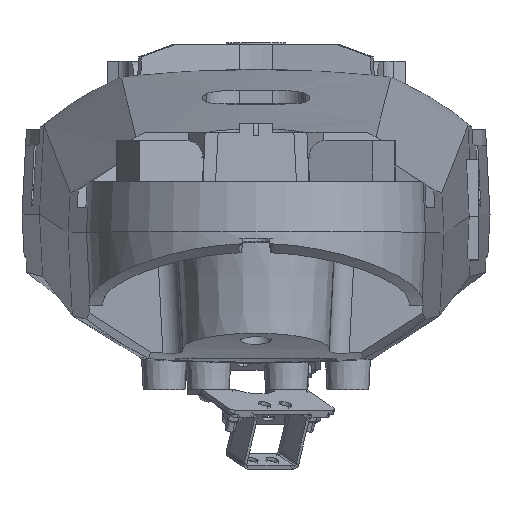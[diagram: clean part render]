
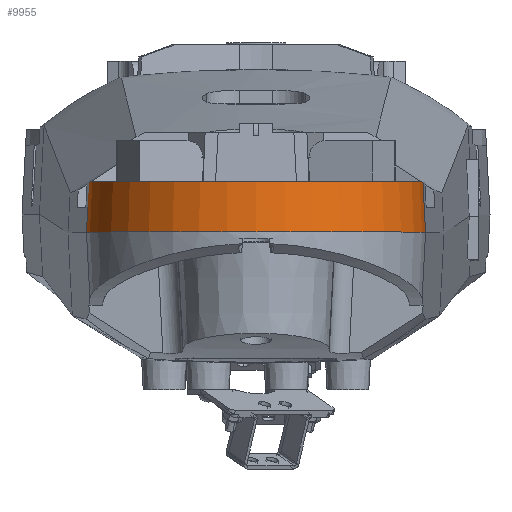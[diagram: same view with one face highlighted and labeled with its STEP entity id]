
A CAD part, top view. The second image highlights one B-rep face of the part: STEP entity #9955.
In plain terms, the highlighted conical face has half-angle 3 degrees and reference radius 101.5 mm.
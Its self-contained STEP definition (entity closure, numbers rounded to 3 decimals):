
#49 = DIRECTION ( 'NONE',  ( 0.052, 0.999, -0.002 ) ) ;
#57 = CARTESIAN_POINT ( 'NONE',  ( 73.563, -171.2, 1593.569 ) ) ;
#171 = DIRECTION ( 'NONE',  ( 0., 1., 0. ) ) ;
#172 = DIRECTION ( 'NONE',  ( -1., 0., 0. ) ) ;
#231 = CARTESIAN_POINT ( 'NONE',  ( 175., -141.2, 1590. ) ) ;
#2346 = CIRCLE ( 'NONE', #12412, 99.928 ) ;
#4895 = CARTESIAN_POINT ( 'NONE',  ( 275.652, -156.2, 1593.541 ) ) ;
#4896 = CARTESIAN_POINT ( 'NONE',  ( 275.399, -151.2, 1593.279 ) ) ;
#4897 = CARTESIAN_POINT ( 'NONE',  ( 275.145, -146.2, 1593.017 ) ) ;
#4904 = CARTESIAN_POINT ( 'NONE',  ( 274.89, -141.2, 1592.755 ) ) ;
#5508 = CARTESIAN_POINT ( 'NONE',  ( 74.348, -156.2, 1593.541 ) ) ;
#5536 = CARTESIAN_POINT ( 'NONE',  ( 74.601, -151.2, 1593.279 ) ) ;
#5782 = CARTESIAN_POINT ( 'NONE',  ( 74.855, -146.2, 1593.017 ) ) ;
#5831 = CARTESIAN_POINT ( 'NONE',  ( 75.11, -141.2, 1592.755 ) ) ;
#8272 = CARTESIAN_POINT ( 'NONE',  ( 75.11, -141.2, 1592.755 ) ) ;
#8391 = CARTESIAN_POINT ( 'NONE',  ( 276.437, -171.2, 1593.569 ) ) ;
#9733 = CARTESIAN_POINT ( 'NONE',  ( 274.89, -141.2, 1592.755 ) ) ;
#9879 = DIRECTION ( 'NONE',  ( -0.052, 0.999, -0.002 ) ) ;
#9882 = CARTESIAN_POINT ( 'NONE',  ( 276.437, -171.2, 1593.569 ) ) ;
#9955 = ADVANCED_FACE ( 'NONE', ( #24917 ), #24813, .T. ) ;
#10813 = DIRECTION ( 'NONE',  ( 0., 0., -1. ) ) ;
#10814 = DIRECTION ( 'NONE',  ( 0., -1., 0. ) ) ;
#10815 = CARTESIAN_POINT ( 'NONE',  ( 175., -171.2, 1590. ) ) ;
#11454 = AXIS2_PLACEMENT_3D ( 'NONE', #10815, #10814, #10813 ) ;
#11939 = CARTESIAN_POINT ( 'NONE',  ( 175., -171.2, 1590. ) ) ;
#11954 = DIRECTION ( 'NONE',  ( 0., 0., -1. ) ) ;
#11959 = DIRECTION ( 'NONE',  ( 0., -1., 0. ) ) ;
#12412 = AXIS2_PLACEMENT_3D ( 'NONE', #231, #171, #172 ) ;
#13274 = VERTEX_POINT ( 'NONE', #9733 ) ;
#13352 = VERTEX_POINT ( 'NONE', #8391 ) ;
#13439 = VERTEX_POINT ( 'NONE', #8272 ) ;
#13635 = B_SPLINE_CURVE_WITH_KNOTS ( 'NONE', 3,
 ( #5508, #5536, #5782, #5831 ),
 .UNSPECIFIED., .F., .F.,
 ( 4, 4 ),
 ( 0., 0.015 ),
 .UNSPECIFIED. ) ;
#13833 = B_SPLINE_CURVE_WITH_KNOTS ( 'NONE', 3,
 ( #4904, #4897, #4896, #4895 ),
 .UNSPECIFIED., .F., .F.,
 ( 4, 4 ),
 ( 0., 0.015 ),
 .UNSPECIFIED. ) ;
#17481 = CIRCLE ( 'NONE', #11454, 101.5 ) ;
#18159 = EDGE_LOOP ( 'NONE', ( #26434, #26446, #27418, #27417, #27416, #27415 ) ) ;
#18343 = EDGE_CURVE ( 'NONE', #19542, #20169, #23946, .T. ) ;
#18361 = EDGE_CURVE ( 'NONE', #13352, #19497, #23805, .T. ) ;
#18627 = EDGE_CURVE ( 'NONE', #13352, #19542, #17481, .T. ) ;
#19164 = EDGE_CURVE ( 'NONE', #13274, #19497, #13833, .T. ) ;
#19198 = EDGE_CURVE ( 'NONE', #20169, #13439, #13635, .T. ) ;
#19497 = VERTEX_POINT ( 'NONE', #23646 ) ;
#19542 = VERTEX_POINT ( 'NONE', #23570 ) ;
#20169 = VERTEX_POINT ( 'NONE', #21889 ) ;
#20512 = AXIS2_PLACEMENT_3D ( 'NONE', #11939, #11959, #11954 ) ;
#21889 = CARTESIAN_POINT ( 'NONE',  ( 74.348, -156.2, 1593.541 ) ) ;
#22817 = EDGE_CURVE ( 'NONE', #13439, #13274, #2346, .T. ) ;
#23570 = CARTESIAN_POINT ( 'NONE',  ( 73.563, -171.2, 1593.569 ) ) ;
#23646 = CARTESIAN_POINT ( 'NONE',  ( 275.652, -156.2, 1593.541 ) ) ;
#23780 = VECTOR ( 'NONE', #9879, 1000. ) ;
#23805 = LINE ( 'NONE', #9882, #23780 ) ;
#23853 = VECTOR ( 'NONE', #49, 1000. ) ;
#23946 = LINE ( 'NONE', #57, #23853 ) ;
#24813 = CONICAL_SURFACE ( 'NONE', #20512, 101.5, 0.052 ) ;
#24917 = FACE_OUTER_BOUND ( 'NONE', #18159, .T. ) ;
#26434 = ORIENTED_EDGE ( 'NONE', *, *, #19164, .F. ) ;
#26446 = ORIENTED_EDGE ( 'NONE', *, *, #22817, .F. ) ;
#27415 = ORIENTED_EDGE ( 'NONE', *, *, #18361, .T. ) ;
#27416 = ORIENTED_EDGE ( 'NONE', *, *, #18627, .F. ) ;
#27417 = ORIENTED_EDGE ( 'NONE', *, *, #18343, .F. ) ;
#27418 = ORIENTED_EDGE ( 'NONE', *, *, #19198, .F. ) ;
